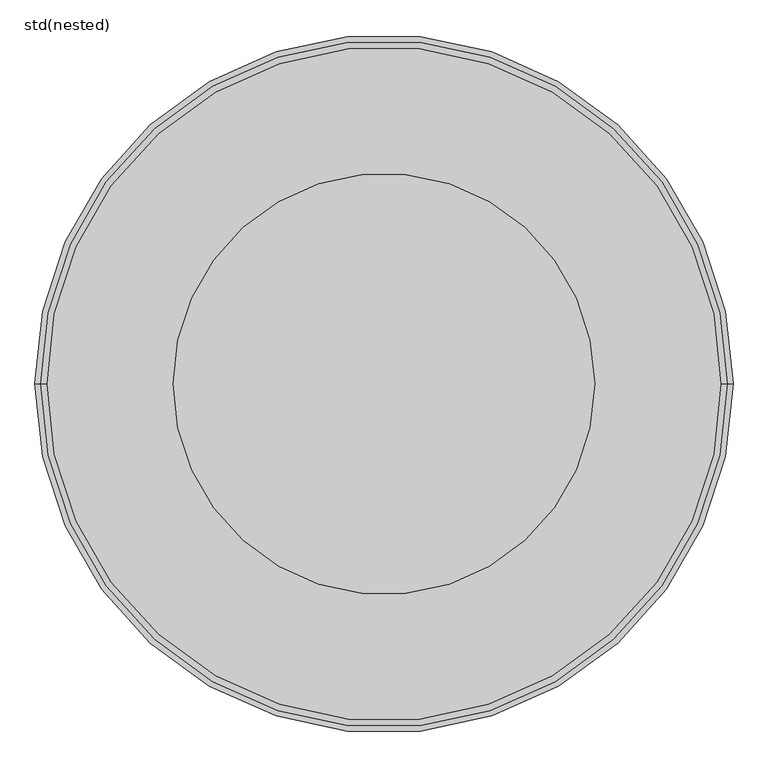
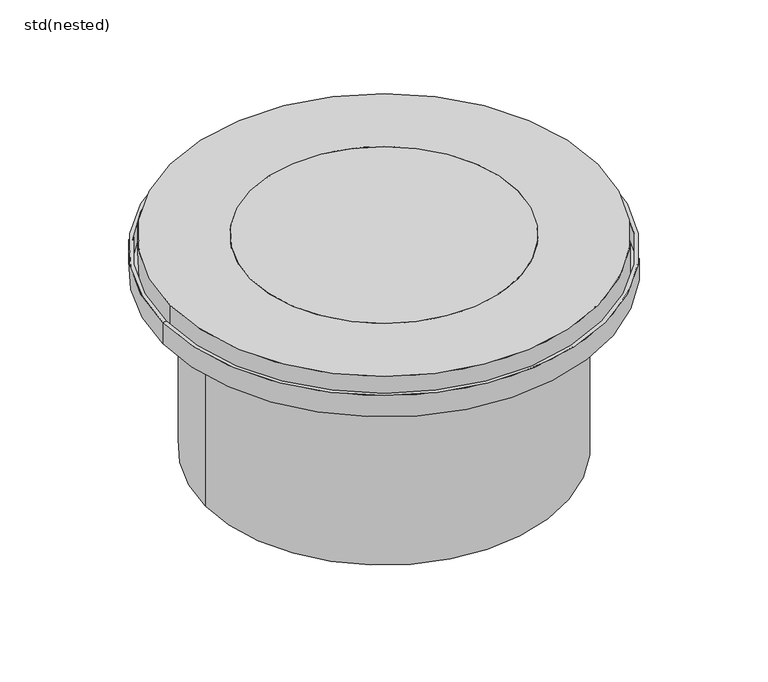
"""IFC4 building model written with IfcOpenShell, lengths in millimetres: unitary equipment geometry, ZZZ_do not use_ME_ST_WPB_top sections_plastic_ACO : std(nested)."""

from ifc_helpers import new_model, si_unit, point, frame, origin, origin_2d, place, context, project, spatial, polyline, circle_curve, trimmed, segment, composite_curve, outline, extrude, source, transform, mapped, element, save
from ifc_brep_helpers import plane_surface, cylinder_surface, revolved_surface, advanced_brep


def std_nested_0c7df508(model_context):
    return source(origin(), model_context, "Body", "SolidModel", [
        advanced_brep(
        [(-510.0, 0.0, -35.0), (510.0, 0.0, -35.0), (518.0, 0.0, -35.0), (-518.0, 0.0, -35.0), (-510.0, 0.0, -80.0), (510.0, 0.0, -80.0), (-410.0, 0.0, -80.0), (410.0, 0.0, -80.0), (-410.0, 0.0, -525.0), (410.0, 0.0, -525.0), (-418.0, 0.0, -525.0), (418.0, 0.0, -525.0), (-418.0, 0.0, -88.0), (418.0, 0.0, -88.0), (-518.0, 0.0, -88.0), (518.0, 0.0, -88.0)],
        [
            (0, 1, circle_curve(frame((0.0, 0.0, -35.0), z_axis=(0.0, 0.0, -1.0), x_axis=(1.0, 0.0, 0.0)), 510.0)),
            (1, 2),
            (2, 3, circle_curve(frame((0.0, 0.0, -35.0), z_axis=(0.0, 0.0, 1.0), x_axis=(1.0, 0.0, 0.0)), 518.0)),
            (3, 0),
            (1, 0, circle_curve(frame((0.0, 0.0, -35.0), z_axis=(0.0, 0.0, -1.0), x_axis=(1.0, 0.0, 0.0)), 510.0)),
            (3, 2, circle_curve(frame((0.0, 0.0, -35.0), z_axis=(0.0, 0.0, 1.0), x_axis=(1.0, 0.0, 0.0)), 518.0)),
            (4, 5, circle_curve(frame((0.0, 0.0, -80.0), z_axis=(0.0, 0.0, -1.0), x_axis=(1.0, 0.0, 0.0)), 510.0)),
            (5, 1),
            (0, 4),
            (5, 4, circle_curve(frame((0.0, 0.0, -80.0), z_axis=(0.0, 0.0, -1.0), x_axis=(1.0, 0.0, 0.0)), 510.0)),
            (6, 7, circle_curve(frame((0.0, 0.0, -80.0), z_axis=(0.0, 0.0, -1.0), x_axis=(1.0, 0.0, 0.0)), 410.0)),
            (7, 5),
            (4, 6),
            (7, 6, circle_curve(frame((0.0, 0.0, -80.0), z_axis=(0.0, 0.0, -1.0), x_axis=(1.0, 0.0, 0.0)), 410.0)),
            (8, 9, circle_curve(frame((0.0, 0.0, -525.0), z_axis=(0.0, 0.0, -1.0), x_axis=(1.0, 0.0, 0.0)), 410.0)),
            (9, 7),
            (6, 8),
            (9, 8, circle_curve(frame((0.0, 0.0, -525.0), z_axis=(0.0, 0.0, -1.0), x_axis=(1.0, 0.0, 0.0)), 410.0)),
            (10, 11, circle_curve(frame((0.0, 0.0, -525.0), z_axis=(0.0, 0.0, -1.0), x_axis=(1.0, 0.0, 0.0)), 418.0)),
            (11, 9),
            (8, 10),
            (11, 10, circle_curve(frame((0.0, 0.0, -525.0), z_axis=(0.0, 0.0, -1.0), x_axis=(1.0, 0.0, 0.0)), 418.0)),
            (12, 13, circle_curve(frame((0.0, 0.0, -88.0), z_axis=(0.0, 0.0, -1.0), x_axis=(1.0, 0.0, 0.0)), 418.0)),
            (13, 11),
            (10, 12),
            (13, 12, circle_curve(frame((0.0, 0.0, -88.0), z_axis=(0.0, 0.0, -1.0), x_axis=(1.0, 0.0, 0.0)), 418.0)),
            (14, 15, circle_curve(frame((0.0, 0.0, -88.0), z_axis=(0.0, 0.0, -1.0), x_axis=(1.0, 0.0, 0.0)), 518.0)),
            (15, 13),
            (12, 14),
            (15, 14, circle_curve(frame((0.0, 0.0, -88.0), z_axis=(0.0, 0.0, -1.0), x_axis=(1.0, 0.0, 0.0)), 518.0)),
            (2, 15),
            (14, 3),
        ],
        [
            plane_surface(frame((0.0, 0.0, -35.0), z_axis=(0.0, 0.0, 1.0), x_axis=(1.0, 0.0, 0.0))),
            revolved_surface(polyline([(510.0, 0.0, -35.0), (510.0, 0.0, -80.0)]), (0.0, 0.0, 240.0), (0.0, 0.0, 1.0)),
            plane_surface(frame((0.0, 0.0, -80.0), z_axis=(0.0, 0.0, 1.0), x_axis=(1.0, 0.0, 0.0))),
            revolved_surface(polyline([(410.0, 0.0, -80.0), (410.0, 0.0, -525.0)]), (0.0, 0.0, 240.0), (0.0, 0.0, 1.0)),
            plane_surface(frame((0.0, 0.0, -525.0), z_axis=(0.0, 0.0, -1.0), x_axis=(1.0, 0.0, 0.0))),
            cylinder_surface(frame((0.0, 0.0, 240.0), z_axis=(0.0, 0.0, 1.0), x_axis=(1.0, 0.0, 0.0)), 418.0),
            plane_surface(frame((0.0, 0.0, -88.0), z_axis=(0.0, 0.0, -1.0), x_axis=(1.0, 0.0, 0.0))),
            cylinder_surface(frame((0.0, 0.0, 240.0), z_axis=(0.0, 0.0, 1.0), x_axis=(1.0, 0.0, 0.0)), 518.0),
        ],
        [
            (0, [[1, 2, 3, 4]]),
            (0, [[5, -4, 6, -2]]),
            (1, [[7, 8, -1, 9]]),
            (1, [[10, -9, -5, -8]]),
            (2, [[11, 12, -7, 13]]),
            (2, [[14, -13, -10, -12]]),
            (3, [[15, 16, -11, 17]]),
            (3, [[18, -17, -14, -16]]),
            (4, [[19, 20, -15, 21]]),
            (4, [[22, -21, -18, -20]]),
            (5, [[23, 24, -19, 25]]),
            (5, [[26, -25, -22, -24]]),
            (6, [[27, 28, -23, 29]]),
            (6, [[30, -29, -26, -28]]),
            (7, [[-3, 31, -27, 32]]),
            (7, [[-6, -32, -30, -31]]),
        ],
    ),
        extrude(outline(composite_curve([segment(trimmed(circle_curve(origin_2d(), 312.5), [point((312.5, 0.0))], [point((-312.5, 0.0))], False, "CARTESIAN"), True, "CONTINUOUS"), segment(trimmed(circle_curve(origin_2d(), 312.5), [point((-312.5, 0.0))], [point((312.5, 0.0))], False, "CARTESIAN"), True, "CONTINUOUS")], self_intersect=False)), frame((0.0, 0.0, -60.0), z_axis=(0.0, 0.0, 1.0), x_axis=(1.0, 0.0, 0.0)), (0.0, 0.0, 1.0), 60.0),
        extrude(outline(composite_curve([segment(trimmed(circle_curve(origin_2d(), 500.0), [point((-500.0, 0.0))], [point((500.0, 0.0))], False, "CARTESIAN"), True, "CONTINUOUS"), segment(trimmed(circle_curve(origin_2d(), 500.0), [point((500.0, 0.0))], [point((-500.0, 0.0))], False, "CARTESIAN"), True, "CONTINUOUS")], self_intersect=False), holes=[composite_curve([segment(trimmed(circle_curve(origin_2d(), 312.5), [point((-312.5, 0.0))], [point((312.5, 0.0))], True, "CARTESIAN"), True, "CONTINUOUS"), segment(trimmed(circle_curve(origin_2d(), 312.5), [point((312.5, 0.0))], [point((-312.5, 0.0))], True, "CARTESIAN"), True, "CONTINUOUS")], self_intersect=False)]), frame((0.0, 0.0, -80.0), z_axis=(0.0, 0.0, 1.0), x_axis=(1.0, 0.0, 0.0)), (0.0, 0.0, 1.0), 80.0),
    ])


if __name__ == "__main__":
    model = new_model("IFC4")
    model_context = context("Model", 3, world=origin())
    ifc_project = project(units=[si_unit("LENGTHUNIT", "METRE", prefix="MILLI")], contexts=[model_context])
    site = spatial("IfcSite", under=ifc_project)
    building = spatial("IfcBuilding", under=site)
    placement = place(None, origin())
    std_nested_shape = std_nested_0c7df508(model_context)
    element("IfcUnitaryEquipment", 1, ObjectType="ZZZ_do not use_ME_ST_WPB_top sections_plastic_ACO : std(nested)", at=placement, inside=building, context=model_context, shape_type="MappedRepresentation", body=[
        mapped(std_nested_shape, transform((0.0, 0.0, 0.0), x_axis=(1.0, 0.0, 0.0), y_axis=(0.0, 1.0, 0.0), z_axis=(0.0, 0.0, 1.0))),
    ])
    save(model, "model.ifc")
